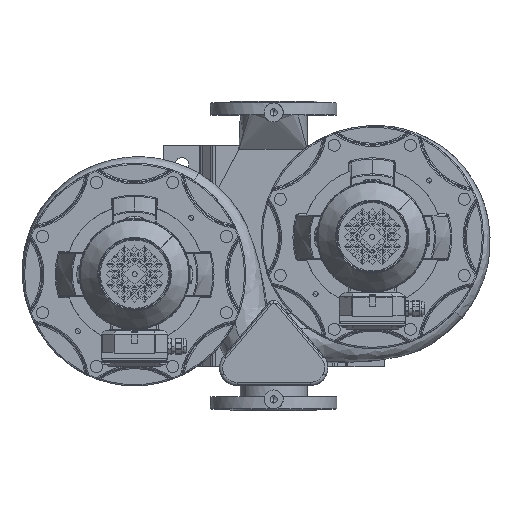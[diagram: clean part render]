
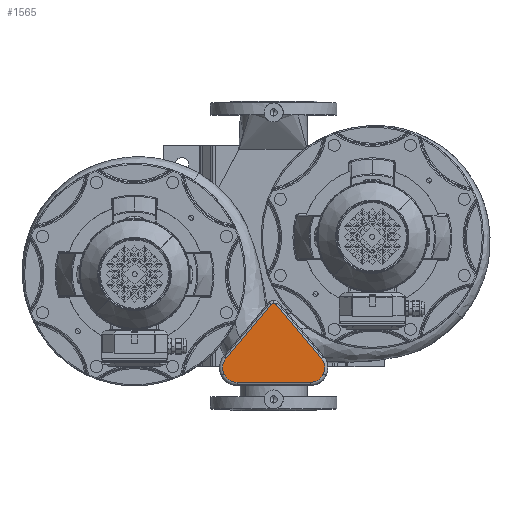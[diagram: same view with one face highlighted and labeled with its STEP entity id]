
A CAD part, top view. The second image highlights one B-rep face of the part: STEP entity #1565.
In plain terms, the highlighted planar face has unit normal (0, 0, 1).
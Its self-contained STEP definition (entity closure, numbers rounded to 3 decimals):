
#1565=ADVANCED_FACE('',(#3036),#3037,.T.);
#3036=FACE_OUTER_BOUND('',#6955,.T.);
#3037=PLANE('',#6956);
#6955=EDGE_LOOP('',(#17116,#17117,#17118,#17119,#17120,#17121,#17122,#17123,#17124));
#6956=AXIS2_PLACEMENT_3D('',#17125,#17126,#17127);
#17116=ORIENTED_EDGE('',*,*,#31445,.F.);
#17117=ORIENTED_EDGE('',*,*,#31439,.F.);
#17118=ORIENTED_EDGE('',*,*,#31453,.F.);
#17119=ORIENTED_EDGE('',*,*,#31435,.F.);
#17120=ORIENTED_EDGE('',*,*,#31429,.F.);
#17121=ORIENTED_EDGE('',*,*,#31459,.F.);
#17122=ORIENTED_EDGE('',*,*,#31425,.F.);
#17123=ORIENTED_EDGE('',*,*,#31419,.F.);
#17124=ORIENTED_EDGE('',*,*,#31464,.F.);
#17125=CARTESIAN_POINT('',(-57.895,205.0,67.0));
#17126=DIRECTION('',(0.0,0.0,1.0));
#17127=DIRECTION('',(1.0,0.0,0.0));
#31419=EDGE_CURVE('',#49969,#49972,#49973,.T.);
#31425=EDGE_CURVE('',#49972,#49982,#49983,.T.);
#31429=EDGE_CURVE('',#49986,#49989,#49990,.T.);
#31435=EDGE_CURVE('',#49989,#49999,#50000,.T.);
#31439=EDGE_CURVE('',#50003,#50006,#50007,.T.);
#31445=EDGE_CURVE('',#50006,#50016,#50017,.T.);
#31453=EDGE_CURVE('',#49999,#50003,#50027,.T.);
#31459=EDGE_CURVE('',#49982,#49986,#50034,.T.);
#31464=EDGE_CURVE('',#50016,#49969,#50039,.T.);
#49969=VERTEX_POINT('',#57985);
#49972=VERTEX_POINT('',#57988);
#49973=CIRCLE('',#57989,23.0);
#49982=VERTEX_POINT('',#57999);
#49983=LINE('',#58000,#58001);
#49986=VERTEX_POINT('',#58004);
#49989=VERTEX_POINT('',#58007);
#49990=CIRCLE('',#58008,5.0);
#49999=VERTEX_POINT('',#58018);
#50000=LINE('',#58019,#58020);
#50003=VERTEX_POINT('',#58023);
#50006=VERTEX_POINT('',#58026);
#50007=CIRCLE('',#58027,23.0);
#50016=VERTEX_POINT('',#58037);
#50017=LINE('',#58038,#58039);
#50027=CIRCLE('',#58050,23.0);
#50034=CIRCLE('',#58058,5.0);
#50039=CIRCLE('',#58064,23.0);
#57985=CARTESIAN_POINT('',(78.74,186.72,67.0));
#57988=CARTESIAN_POINT('',(75.514,162.216,67.0));
#57989=AXIS2_PLACEMENT_3D('',#71582,#71583,#71584);
#57999=CARTESIAN_POINT('',(3.83,76.786,67.0));
#58000=CARTESIAN_POINT('',(58.487,141.924,67.0));
#58001=VECTOR('',#71595,1.);
#58004=CARTESIAN_POINT('',(0.,75.0,67.0));
#58007=CARTESIAN_POINT('',(-3.83,76.786,67.0));
#58008=AXIS2_PLACEMENT_3D('',#71602,#71603,#71604);
#58018=CARTESIAN_POINT('',(-75.514,162.216,67.0));
#58019=CARTESIAN_POINT('',(-46.566,127.717,67.0));
#58020=VECTOR('',#71615,1.0);
#58023=CARTESIAN_POINT('',(-78.74,186.72,67.0));
#58026=CARTESIAN_POINT('',(-57.895,200.0,67.0));
#58027=AXIS2_PLACEMENT_3D('',#71622,#71623,#71624);
#58037=CARTESIAN_POINT('',(57.895,200.0,67.0));
#58038=CARTESIAN_POINT('',(-57.895,200.0,67.0));
#58039=VECTOR('',#71635,1.0);
#58050=AXIS2_PLACEMENT_3D('',#71649,#71650,#71651);
#58058=AXIS2_PLACEMENT_3D('',#71659,#71660,#71661);
#58064=AXIS2_PLACEMENT_3D('',#71666,#71667,#71668);
#71582=CARTESIAN_POINT('',(57.895,177.0,67.0));
#71583=DIRECTION('',(0.0,0.0,-1.0));
#71584=DIRECTION('',(0.906,0.423,0.0));
#71595=DIRECTION('',(-0.643,-0.766,0.0));
#71602=CARTESIAN_POINT('',(0.0,80.0,67.0));
#71603=DIRECTION('',(0.0,0.0,-1.0));
#71604=DIRECTION('',(0.0,-1.0,0.0));
#71615=DIRECTION('',(-0.643,0.766,0.0));
#71622=CARTESIAN_POINT('',(-57.895,177.0,67.0));
#71623=DIRECTION('',(0.0,0.0,-1.0));
#71624=DIRECTION('',(-0.906,0.423,0.0));
#71635=DIRECTION('',(1.0,0.0,0.0));
#71649=CARTESIAN_POINT('',(-57.895,177.0,67.0));
#71650=DIRECTION('',(0.0,0.0,-1.0));
#71651=DIRECTION('',(-0.906,0.423,0.0));
#71659=CARTESIAN_POINT('',(0.0,80.0,67.0));
#71660=DIRECTION('',(0.0,0.0,-1.0));
#71661=DIRECTION('',(0.0,-1.0,0.0));
#71666=CARTESIAN_POINT('',(57.895,177.0,67.0));
#71667=DIRECTION('',(0.0,0.0,-1.0));
#71668=DIRECTION('',(0.906,0.423,0.0));
